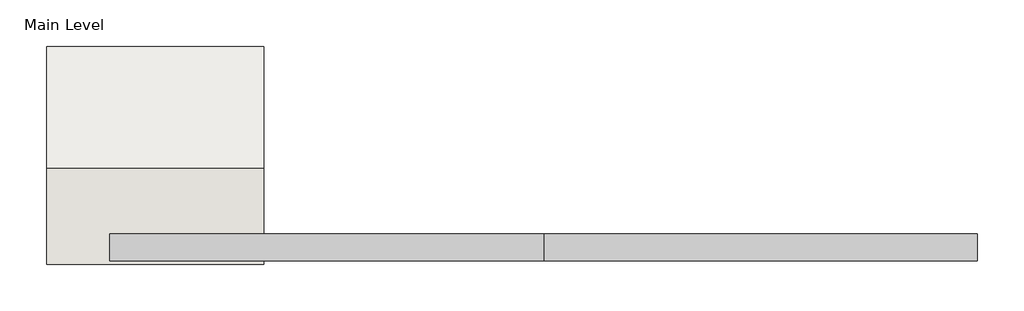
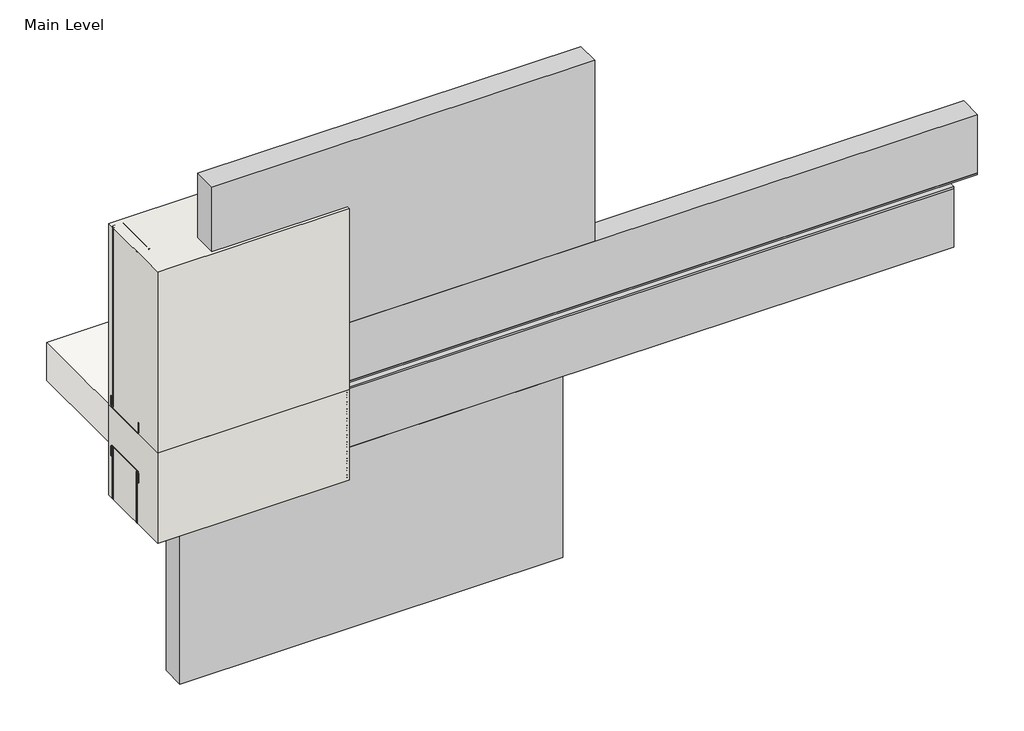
# One storey, incomplete: 14 proxies, 2 walls, 1 slab.
"""IFC4 building model written with IfcOpenShell, lengths in millimetres."""

from ifc_helpers import new_model, si_unit, frame, origin, origin_with_axes, place, context, project, spatial, polyline, outline, extrude, transform, mapped, element, save
from components import generic_models_31547c53, generic_models_9cce42f9, generic_models_31d49adb, generic_models_9b5b6e1e, proxy_ba8d72b4, proxy_81afb05a, proxy_e5e434bb, proxy_5fc139d0, proxy_8f7a9f0e, proxy_e2cf066e, wood_blocking_c9818c35

model = new_model("IFC4")

# Units and contexts
model_context = context("Model", 3, world=origin())
ifc_project = project(units=[si_unit("LENGTHUNIT", "METRE", prefix="MILLI")], contexts=[model_context])

# Site, building, storey
site = spatial("IfcSite", under=ifc_project)
building = spatial("IfcBuilding", under=site)
storey = spatial("IfcBuildingStorey", under=building, Name="Main Level", Elevation=0.0)

# Proxies
placement = place(None, origin())
generic_models_shape = generic_models_31547c53(model_context)
element("IfcBuildingElementProxy", 1, Name="Durabond Generic Model Sealant Vent : Durabond Generic Model Sealant Vent", ObjectType="Durabond Generic Model Sealant Vent : Durabond Generic Model Sealant Vent", at=placement, inside=storey, context=model_context, shape_type="MappedRepresentation", body=[
    mapped(generic_models_shape, transform((26865.4101773, 546.8432813, 8.5594788), x_axis=(1.0, 0.0, 0.0), y_axis=(0.0, 0.08715574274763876, -0.9961946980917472), z_axis=(0.0, 0.9961946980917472, 0.08715574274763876))),
])
generic_models_2_shape = generic_models_9cce42f9(model_context)
generic_models_3_shape = generic_models_31d49adb(model_context)
generic_models_4_shape = generic_models_9b5b6e1e(model_context)
element("IfcBuildingElementProxy", 2, Name="CRAi Generic Model Mesh Piece Face Based : CRAi Generic Model Mesh Piece Face Based", ObjectType="CRAi Generic Model Mesh Piece Face Based : CRAi Generic Model Mesh Piece Face Based", at=placement, inside=storey, context=model_context, shape_type="MappedRepresentation", body=[
    mapped(generic_models_2_shape, transform((26933.6726773, 541.9066297, -153.2314536), x_axis=(-1.0, 0.0, 0.0), y_axis=(0.0, 0.0, -1.0), z_axis=(0.0, -1.0, 0.0))),
    mapped(generic_models_3_shape, transform((26933.6726773, 541.9066297, -153.2314536), x_axis=(-1.0, 0.0, 0.0), y_axis=(0.0, 0.0, -1.0), z_axis=(0.0, -1.0, 0.0))),
    mapped(generic_models_4_shape, transform((26933.6726773, 541.9066297, -153.2314536), x_axis=(-1.0, 0.0, 0.0), y_axis=(0.0, 0.0, -1.0), z_axis=(0.0, -1.0, 0.0))),
])
proxy_shape = proxy_ba8d72b4(model_context)
element("IfcBuildingElementProxy", 3, Name="Durabond Generic Model Equalite Select Boundary Board : 3\"", ObjectType="Durabond Generic Model Equalite Select Boundary Board : 3\"", at=placement, inside=storey, context=model_context, shape_type="MappedRepresentation", body=[
    mapped(proxy_shape, transform((27809.9726773, 624.4566297, -100.0879072), x_axis=(-1.0, 0.0, 0.0), y_axis=(0.0, 0.0, -1.0), z_axis=(0.0, -1.0, 0.0))),
])
proxy_2_shape = proxy_81afb05a(model_context)
element("IfcBuildingElementProxy", 4, Name="Durabond Generic Model Equalite Insulation Board : 3\"", ObjectType="Durabond Generic Model Equalite Insulation Board : 3\"", at=placement, inside=storey, context=model_context, shape_type="MappedRepresentation", body=[
    mapped(proxy_2_shape, transform((27276.5726773, 624.4566297, 523.392643), x_axis=(1.0, 0.0, 0.0), y_axis=(0.0, 0.0, 1.0), z_axis=(0.0, -1.0, 0.0))),
])
element("IfcBuildingElementProxy", 5, Name="Durabond Generic Model Equalite Insulation Board : 3\"", ObjectType="Durabond Generic Model Equalite Insulation Board : 3\"", at=placement, inside=storey, context=model_context, shape_type="MappedRepresentation", body=[
    mapped(proxy_2_shape, transform((27174.9726773, 624.4566297, -506.4879072), x_axis=(1.0, 0.0, 0.0), y_axis=(0.0, 0.0, 1.0), z_axis=(0.0, -1.0, 0.0))),
])
proxy_3_shape = proxy_e5e434bb(model_context)
element("IfcBuildingElementProxy", 6, Name="Durabond Generic Model Equalite Vent Board : 3\"", ObjectType="Durabond Generic Model Equalite Vent Board : 3\"", at=placement, inside=storey, context=model_context, shape_type="MappedRepresentation", body=[
    mapped(proxy_3_shape, transform((27886.1726773, 624.4566297, 116.992643), x_axis=(1.0, 0.0, 0.0), y_axis=(0.0, 0.0, 1.0), z_axis=(0.0, -1.0, 0.0))),
])
proxy_4_shape = proxy_5fc139d0(model_context)
element("IfcBuildingElementProxy", 7, Name="Durabond Generic Model Barrier Seam Tape Straight : 4\" Barrier Seam Tape", ObjectType="Durabond Generic Model Barrier Seam Tape Straight : 4\" Barrier Seam Tape", at=placement, inside=storey, context=model_context, shape_type="MappedRepresentation", body=[
    mapped(proxy_4_shape, transform((26514.5726773, 626.8378797, 50.8), x_axis=(0.0, 0.0, 1.0), y_axis=(0.0, -1.0, 0.0), z_axis=(1.0, 0.0, 0.0))),
])
element("IfcBuildingElementProxy", 8, Name="Durabond Generic Model Barrier Seam Tape Straight : 4\" Barrier Seam Tape", ObjectType="Durabond Generic Model Barrier Seam Tape Straight : 4\" Barrier Seam Tape", at=placement, inside=storey, context=model_context, shape_type="MappedRepresentation", body=[
    mapped(proxy_4_shape, transform((26514.5726773, 626.8378797, -76.2), x_axis=(0.0, 0.0, 1.0), y_axis=(0.0, -1.0, 0.0), z_axis=(1.0, 0.0, 0.0))),
])
proxy_5_shape = proxy_8f7a9f0e(model_context)
element("IfcBuildingElementProxy", 9, Name="CRAi Generic Model Metal Stud : Metal Framing Stud - 1\" x 3.5\"", ObjectType="CRAi Generic Model Metal Stud : Metal Framing Stud - 1\" x 3.5\"", at=placement, inside=storey, context=model_context, shape_type="MappedRepresentation", body=[
    mapped(proxy_5_shape, transform((26508.2226773, 719.7066297, 0.0), x_axis=(-1.0, 0.0, 0.0), y_axis=(0.0, -1.0, 0.0), z_axis=(0.0, 0.0, 1.0))),
])
element("IfcBuildingElementProxy", 10, Name="CRAi Generic Model Metal Stud : Metal Framing Stud - 1\" x 3.5\"", ObjectType="CRAi Generic Model Metal Stud : Metal Framing Stud - 1\" x 3.5\"", at=placement, inside=storey, context=model_context, shape_type="MappedRepresentation", body=[
    mapped(proxy_5_shape, transform((26914.6226773, 719.7066297, 0.0), x_axis=(-1.0, 0.0, 0.0), y_axis=(0.0, -1.0, 0.0), z_axis=(0.0, 0.0, 1.0))),
])
proxy_6_shape = proxy_e2cf066e(model_context)
element("IfcBuildingElementProxy", 11, Name="CRAi Generic Model Metal Stud : Metal Framing Stud - 1\" x 3.5\"", ObjectType="CRAi Generic Model Metal Stud : Metal Framing Stud - 1\" x 3.5\"", at=placement, inside=storey, context=model_context, shape_type="MappedRepresentation", body=[
    mapped(proxy_6_shape, transform((26508.0163435, 719.7099828, 0.0), x_axis=(-1.0, 0.0, 0.0), y_axis=(0.0, -1.0, 0.0), z_axis=(0.0, 0.0, 1.0))),
])
element("IfcBuildingElementProxy", 12, Name="CRAi Generic Model Metal Stud : Metal Framing Stud - 1\" x 3.5\"", ObjectType="CRAi Generic Model Metal Stud : Metal Framing Stud - 1\" x 3.5\"", at=placement, inside=storey, context=model_context, shape_type="MappedRepresentation", body=[
    mapped(proxy_6_shape, transform((26914.4163435, 719.7099828, 0.0), x_axis=(-1.0, 0.0, 0.0), y_axis=(0.0, -1.0, 0.0), z_axis=(0.0, 0.0, 1.0))),
])
wood_blocking_shape = wood_blocking_c9818c35(model_context)
element("IfcBuildingElementProxy", 13, Name="CRAi Generic Model Line Based Metal Framing Track : Wood Blocking", ObjectType="CRAi Generic Model Line Based Metal Framing Track : Wood Blocking", at=placement, inside=storey, context=model_context, shape_type="MappedRepresentation", body=[
    mapped(wood_blocking_shape, transform((26488.9663435, 643.5099828, 0.0), x_axis=(1.0, 0.0, 0.0), y_axis=(0.0, 1.0, 0.0), z_axis=(0.0, 0.0, 1.0))),
])
element("IfcBuildingElementProxy", 14, Name="CRAi Generic Model Line Based Metal Framing Track : Wood Blocking", ObjectType="CRAi Generic Model Line Based Metal Framing Track : Wood Blocking", at=placement, inside=storey, context=model_context, shape_type="MappedRepresentation", body=[
    mapped(wood_blocking_shape, transform((26488.9663435, 795.9099828, -127.0), x_axis=(1.0, 0.0, 0.0), y_axis=(0.0, -1.0, 0.0), z_axis=(0.0, 0.0, -1.0))),
])

# Slab
element("IfcSlab", 15, ObjectType="CRAi Concrete Floor", at=placement, inside=storey, context=model_context, shape_type="SweptSolid", body=[
    extrude(outline(polyline([(27098.7726773, 627.6316297), (26489.1726773, 627.6316297), (26489.1726773, 1151.5066297), (27098.7726773, 1151.5066297), (27098.7726773, 627.6316297)])), frame((0.0, 0.0, -127.0), z_axis=(0.0, 0.0, 1.0), x_axis=(1.0, 0.0, 0.0)), (0.0, 0.0, 1.0), 127.0),
])

# Walls
element("IfcWall", 16, ObjectType="189mm (7.5”) EIFS Field Applied on Mtl. Stud Layer - 50mm Grooved Insulation Board Metal Stud Wall(AirStop) 2", at=placement, inside=storey, context=model_context, shape_type="SweptSolid", body=[
    extrude(outline(polyline([(27098.7726773, 538.7316297), (26489.1726773, 538.7316297), (26489.1726773, 808.6066297), (27098.7726773, 808.6066297), (27098.7726773, 538.7316297)])), origin_with_axes(), (0.0, 0.0, 1.0), 609.6),
])
element("IfcWall", 17, ObjectType="189mm (7.5”) EIFS Field Applied on Mtl. Stud Layer - 50mm Grooved Insulation Board Metal Stud Wall(AirStop) 2", at=placement, inside=storey, context=model_context, shape_type="SweptSolid", body=[
    extrude(outline(polyline([(27098.7726773, 538.7316297), (26489.1726773, 538.7316297), (26489.1726773, 808.6066297), (27098.7726773, 808.6066297), (27098.7726773, 538.7316297)])), frame((0.0, 0.0, -304.8), z_axis=(0.0, 0.0, 1.0), x_axis=(1.0, 0.0, 0.0)), (0.0, 0.0, 1.0), 304.8),
])

save(model, "model.ifc")
